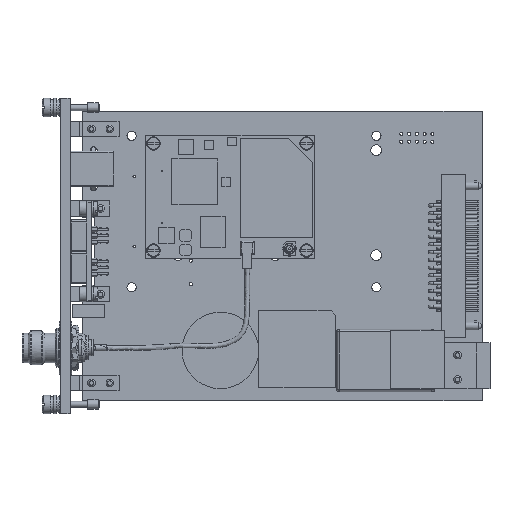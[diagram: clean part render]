
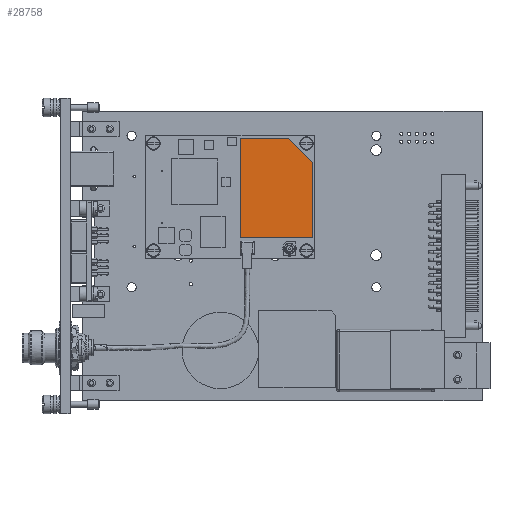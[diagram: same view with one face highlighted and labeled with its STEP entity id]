
A CAD part, top view. The second image highlights one B-rep face of the part: STEP entity #28758.
In plain terms, the highlighted planar face has unit normal (0, 0, 1).
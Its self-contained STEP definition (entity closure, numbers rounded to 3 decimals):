
#28758=ADVANCED_FACE('',(#71881),#71883,.F.);
#71881=FACE_BOUND('',#71882,.T.);
#71882=EDGE_LOOP('',(#106407,#106408,#106409,#106410,#106411));
#71883=PLANE('',#71884);
#71884=AXIS2_PLACEMENT_3D('',#71885,#71886,#71887);
#71885=CARTESIAN_POINT('',(75.648,86.499,9.9));
#71886=DIRECTION('',(0.,0.,-1.));
#71887=DIRECTION('',(0.,-1.,0.));
#106407=ORIENTED_EDGE('',*,*,#125389,.T.);
#106408=ORIENTED_EDGE('',*,*,#125387,.T.);
#106409=ORIENTED_EDGE('',*,*,#125395,.T.);
#106410=ORIENTED_EDGE('',*,*,#125393,.T.);
#106411=ORIENTED_EDGE('',*,*,#125391,.T.);
#125387=EDGE_CURVE('',#145671,#145669,#145672,.T.);
#125389=EDGE_CURVE('',#145674,#145671,#145675,.T.);
#125391=EDGE_CURVE('',#145677,#145674,#145678,.T.);
#125393=EDGE_CURVE('',#145680,#145677,#145681,.T.);
#125395=EDGE_CURVE('',#145669,#145680,#145683,.T.);
#145669=VERTEX_POINT('',#193813);
#145671=VERTEX_POINT('',#193817);
#145672=LINE('',#193818,#193819);
#145674=VERTEX_POINT('',#193824);
#145675=LINE('',#193825,#193826);
#145677=VERTEX_POINT('',#193831);
#145678=LINE('',#193832,#193833);
#145680=VERTEX_POINT('',#193838);
#145681=LINE('',#193839,#193840);
#145683=LINE('',#193845,#193846);
#193813=CARTESIAN_POINT('',(67.147,85.729,9.9));
#193817=CARTESIAN_POINT('',(75.169,77.71,9.9));
#193818=CARTESIAN_POINT('',(75.169,77.71,9.9));
#193819=VECTOR('',#193820,1.);
#193820=DIRECTION('',(-0.707,0.707,0.));
#193824=CARTESIAN_POINT('',(75.169,53.204,9.9));
#193825=CARTESIAN_POINT('',(75.169,53.204,9.9));
#193826=VECTOR('',#193827,1.);
#193827=DIRECTION('',(0.,1.,0.));
#193831=CARTESIAN_POINT('',(51.444,53.204,9.9));
#193832=CARTESIAN_POINT('',(51.444,53.204,9.9));
#193833=VECTOR('',#193834,1.);
#193834=DIRECTION('',(1.,0.,0.));
#193838=CARTESIAN_POINT('',(51.444,85.729,9.9));
#193839=CARTESIAN_POINT('',(51.444,85.729,9.9));
#193840=VECTOR('',#193841,1.);
#193841=DIRECTION('',(0.,-1.,0.));
#193845=CARTESIAN_POINT('',(67.147,85.729,9.9));
#193846=VECTOR('',#193847,1.);
#193847=DIRECTION('',(-1.,0.,0.));
